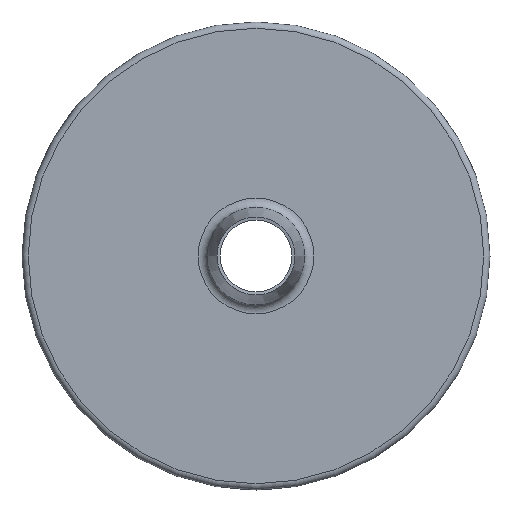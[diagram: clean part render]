
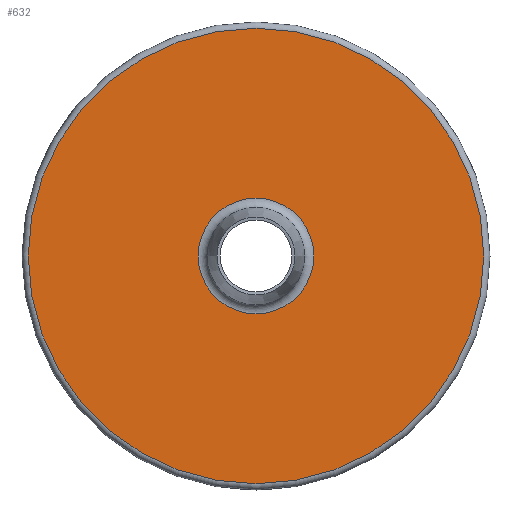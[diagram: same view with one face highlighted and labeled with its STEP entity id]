
A CAD part, front view. The second image highlights one B-rep face of the part: STEP entity #632.
In plain terms, the highlighted planar face has unit normal (0, -1, 0).
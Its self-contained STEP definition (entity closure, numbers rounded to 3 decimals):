
#18=FACE_BOUND('',#192,.T.);
#125=PLANE('',#725);
#155=FACE_OUTER_BOUND('',#191,.T.);
#191=EDGE_LOOP('',(#563));
#192=EDGE_LOOP('',(#564));
#237=CIRCLE('',#724,18.529);
#238=CIRCLE('',#726,73.);
#306=VERTEX_POINT('',#1166);
#307=VERTEX_POINT('',#1170);
#394=EDGE_CURVE('',#306,#306,#237,.T.);
#395=EDGE_CURVE('',#307,#307,#238,.T.);
#563=ORIENTED_EDGE('',*,*,#395,.F.);
#564=ORIENTED_EDGE('',*,*,#394,.F.);
#632=ADVANCED_FACE('',(#155,#18),#125,.T.);
#724=AXIS2_PLACEMENT_3D('',#1168,#911,#912);
#725=AXIS2_PLACEMENT_3D('',#1169,#913,#914);
#726=AXIS2_PLACEMENT_3D('',#1171,#915,#916);
#911=DIRECTION('center_axis',(0.,-1.,0.));
#912=DIRECTION('ref_axis',(1.,0.,0.));
#913=DIRECTION('center_axis',(0.,-1.,0.));
#914=DIRECTION('ref_axis',(0.,0.,-1.));
#915=DIRECTION('center_axis',(0.,1.,0.));
#916=DIRECTION('ref_axis',(1.,0.,0.));
#1166=CARTESIAN_POINT('',(0.,-10.,-18.529));
#1168=CARTESIAN_POINT('Origin',(0.,-10.,0.));
#1169=CARTESIAN_POINT('Origin',(-75.,-10.,0.));
#1170=CARTESIAN_POINT('',(0.,-10.,-73.));
#1171=CARTESIAN_POINT('Origin',(0.,-10.,0.));
